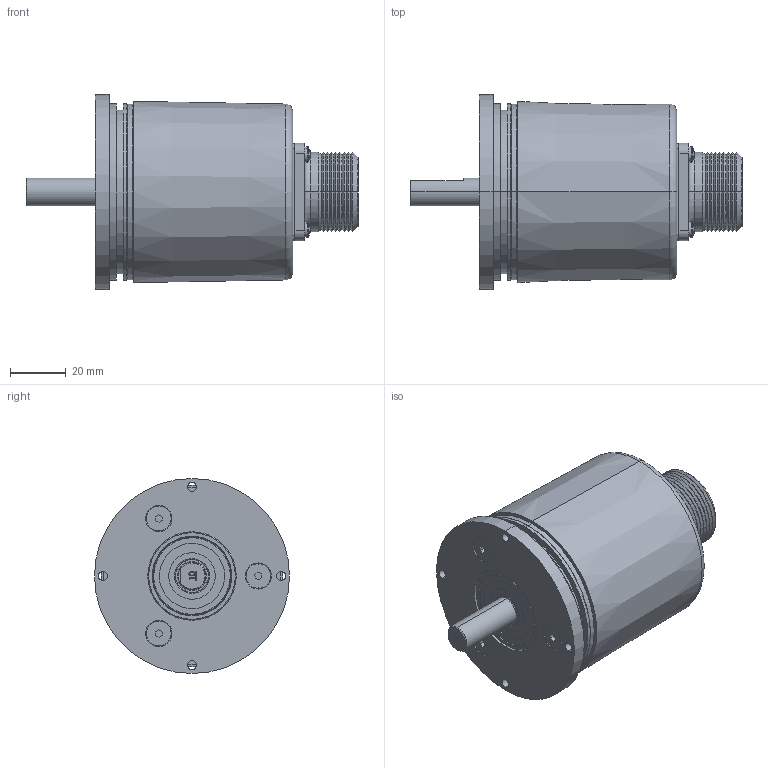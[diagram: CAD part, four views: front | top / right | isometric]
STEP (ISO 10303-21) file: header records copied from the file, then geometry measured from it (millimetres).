
FILE_DESCRIPTION (( 'STEP AP203' ), '1' );
FILE_NAME ('847H-ELXX-AHXXXXX.step', '2014-10-09T17:31:37', ( 'Windows 7 64-Bit' ), ( 'SICK Inc.' ), 'SwSTEP 2.0', 'SolidWorks 2014', '' );
FILE_SCHEMA (( 'CONFIG_CONTROL_DESIGN' ));
Length unit declared in the file: millimetre
Products named in the file (1): 847H-ELXX-AHXXXXX
Bounding box: 119.14 x 70 x 70 mm (x, y, z)
Surface area: 40535.4 mm2 (no closed solid volume)
Topology: 0 solids, 40 shells, 377 faces, 1027 edges, 654 vertices
Faces by surface type: cylinder 134, plane 106, cone 89, sphere 28, torus 16, bspline 4
Entity records: 11774 total; most frequent: CARTESIAN_POINT 2405, DIRECTION 2182, ORIENTED_EDGE 1648, EDGE_CURVE 947, AXIS2_PLACEMENT_3D 885, VERTEX_POINT 614, CIRCLE 511, EDGE_LOOP 434
